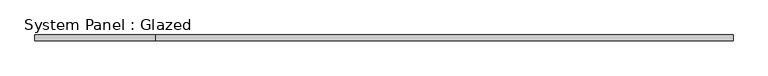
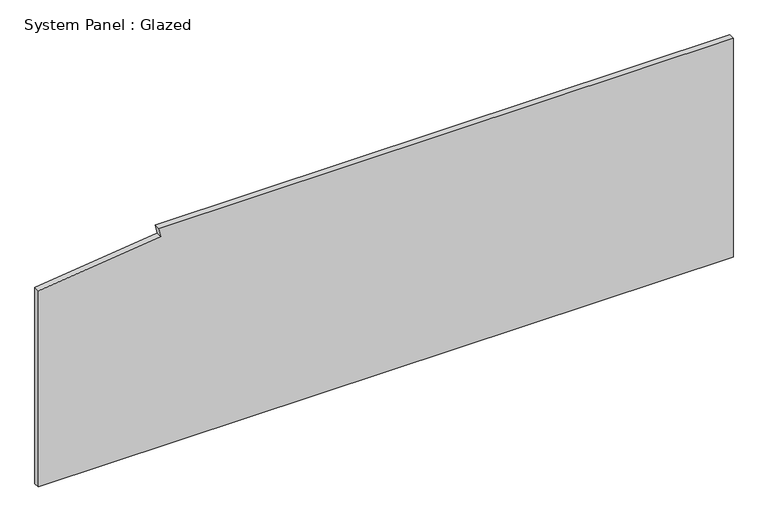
"""IFC4 building model written with IfcOpenShell, lengths in millimetres: plate geometry, System Panel : Glazed."""

from ifc_helpers import new_model, si_unit, frame, origin, place, context, project, spatial, polyline, outline, extrude, source, transform, mapped, element, save


def system_panel_glazed_c3850a69(model_context):
    return source(origin(), model_context, "Body", "SweptSolid", [
        extrude(outline(polyline([(0.0, -1504.95), (0.0, 1504.95), (1003.3, 1504.95), (1003.3, -983.9521674), (963.0482908, -975.2733336), (899.202921, -1504.95), (0.0, -1504.95)])), frame((0.0, 19.05, 0.0), z_axis=(0.0, 1.0, 0.0), x_axis=(0.0, 0.0, 1.0)), (0.0, 0.0, 1.0), 25.4),
    ])


if __name__ == "__main__":
    model = new_model("IFC4")
    model_context = context("Model", 3, world=origin())
    ifc_project = project(units=[si_unit("LENGTHUNIT", "METRE", prefix="MILLI")], contexts=[model_context])
    site = spatial("IfcSite", under=ifc_project)
    building = spatial("IfcBuilding", under=site)
    placement = place(None, origin())
    system_panel_glazed_shape = system_panel_glazed_c3850a69(model_context)
    element("IfcPlate", 1, ObjectType="System Panel : Glazed", at=placement, inside=building, context=model_context, shape_type="MappedRepresentation", body=[
        mapped(system_panel_glazed_shape, transform((0.0, 0.0, 0.0), x_axis=(1.0, 0.0, 0.0), y_axis=(0.0, 1.0, 0.0), z_axis=(0.0, 0.0, 1.0))),
    ])
    save(model, "model.ifc")
